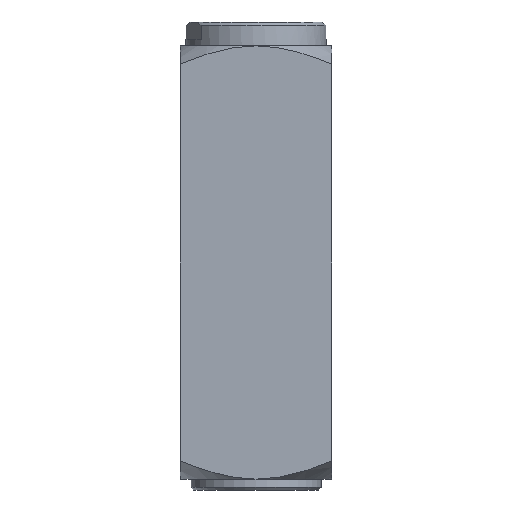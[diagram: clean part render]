
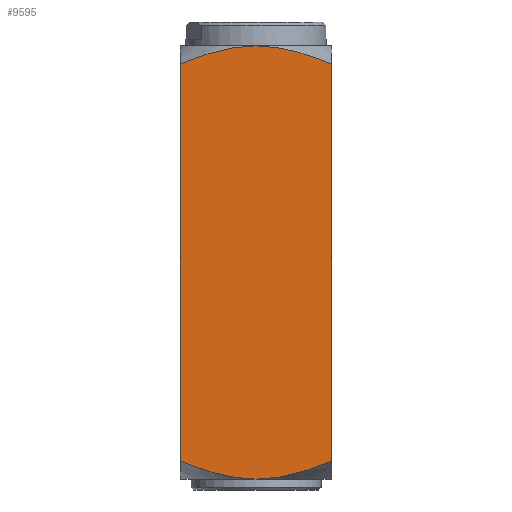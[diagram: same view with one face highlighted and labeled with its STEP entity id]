
A CAD part, front view. The second image highlights one B-rep face of the part: STEP entity #9595.
In plain terms, the highlighted planar face has unit normal (0, -1, 0).
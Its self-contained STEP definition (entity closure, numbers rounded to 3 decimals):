
#61 = CARTESIAN_POINT ( 'NONE',  ( -7.558, -35., -99.551 ) ) ;
#128 = CARTESIAN_POINT ( 'NONE',  ( -6.057, -35., -99.718 ) ) ;
#224 = CARTESIAN_POINT ( 'NONE',  ( 35., -35., -91.63 ) ) ;
#262 = CARTESIAN_POINT ( 'NONE',  ( -3.788, -35., -99.887 ) ) ;
#265 = CARTESIAN_POINT ( 'NONE',  ( -3.026, -35., -99.929 ) ) ;
#470 = CARTESIAN_POINT ( 'NONE',  ( -1.51, -35., -99.986 ) ) ;
#619 = CARTESIAN_POINT ( 'NONE',  ( -0.754, -35., -100. ) ) ;
#1658 = CARTESIAN_POINT ( 'NONE',  ( 35., -35., 91.63 ) ) ;
#1710 = EDGE_CURVE ( 'NONE', #26825, #18938, #8979, .T. ) ;
#1729 = B_SPLINE_CURVE_WITH_KNOTS ( 'NONE', 3,
 ( #30011, #30077, #30119, #30189, #30225, #30231, #30271, #61, #128, #262, #265, #470, #619, #1847 ),
 .UNSPECIFIED., .F., .F.,
 ( 4, 2, 2, 2, 2, 2, 4 ),
 ( 0.038, 0.047, 0.056, 0.065, 0.069, 0.072, 0.074 ),
 .UNSPECIFIED. ) ;
#1847 = CARTESIAN_POINT ( 'NONE',  ( 0., -35., -100. ) ) ;
#1923 = B_SPLINE_CURVE_WITH_KNOTS ( 'NONE', 3,
 ( #11794, #11870, #11897, #11933, #11963, #11983, #12074, #12114, #12121, #12155, #12179, #12216 ),
 .UNSPECIFIED., .F., .F.,
 ( 4, 2, 2, 2, 2, 4 ),
 ( 0.091, 0.1, 0.105, 0.109, 0.118, 0.127 ),
 .UNSPECIFIED. ) ;
#2057 = VECTOR ( 'NONE', #4587, 1000. ) ;
#2546 = VECTOR ( 'NONE', #18197, 1000. ) ;
#2583 = ORIENTED_EDGE ( 'NONE', *, *, #15222, .T. ) ;
#3062 = ORIENTED_EDGE ( 'NONE', *, *, #1710, .T. ) ;
#3750 = CARTESIAN_POINT ( 'NONE',  ( -35., -35., -100. ) ) ;
#4136 = LINE ( 'NONE', #3750, #2057 ) ;
#4159 = EDGE_LOOP ( 'NONE', ( #24977, #27504, #2583, #3062, #19825, #19729 ) ) ;
#4587 = DIRECTION ( 'NONE',  ( 0., 0., 1. ) ) ;
#4981 = EDGE_CURVE ( 'NONE', #29449, #9134, #4136, .T. ) ;
#5392 = CARTESIAN_POINT ( 'NONE',  ( 0., -35., 100. ) ) ;
#5890 = CARTESIAN_POINT ( 'NONE',  ( -0.754, -35., 100. ) ) ;
#6051 = CARTESIAN_POINT ( 'NONE',  ( 0., -35., 100. ) ) ;
#6124 = CARTESIAN_POINT ( 'NONE',  ( -1.51, -35., 99.986 ) ) ;
#6159 = CARTESIAN_POINT ( 'NONE',  ( -3.026, -35., 99.929 ) ) ;
#6199 = CARTESIAN_POINT ( 'NONE',  ( -3.788, -35., 99.887 ) ) ;
#6221 = CARTESIAN_POINT ( 'NONE',  ( -6.057, -35., 99.718 ) ) ;
#6227 = CARTESIAN_POINT ( 'NONE',  ( -7.558, -35., 99.551 ) ) ;
#6260 = CARTESIAN_POINT ( 'NONE',  ( -12.03, -35., 98.905 ) ) ;
#6298 = CARTESIAN_POINT ( 'NONE',  ( -14.97, -35., 98.28 ) ) ;
#6363 = CARTESIAN_POINT ( 'NONE',  ( -20.79, -35., 96.752 ) ) ;
#6396 = CARTESIAN_POINT ( 'NONE',  ( -23.671, -35., 95.848 ) ) ;
#6430 = CARTESIAN_POINT ( 'NONE',  ( -29.388, -35., 93.854 ) ) ;
#6434 = CARTESIAN_POINT ( 'NONE',  ( -32.207, -35., 92.77 ) ) ;
#8149 = B_SPLINE_CURVE_WITH_KNOTS ( 'NONE', 3,
 ( #6051, #5890, #6124, #6159, #6199, #6221, #6227, #6260, #6298, #6363, #6396, #6430, #6434, #26940 ),
 .UNSPECIFIED., .F., .F.,
 ( 4, 2, 2, 2, 2, 2, 4 ),
 ( 0.127, 0.129, 0.132, 0.136, 0.145, 0.154, 0.163 ),
 .UNSPECIFIED. ) ;
#8979 = LINE ( 'NONE', #17677, #2546 ) ;
#9059 = AXIS2_PLACEMENT_3D ( 'NONE', #18035, #18069, #18062 ) ;
#9134 = VERTEX_POINT ( 'NONE', #14272 ) ;
#9285 = VERTEX_POINT ( 'NONE', #5392 ) ;
#9595 = ADVANCED_FACE ( 'NONE', ( #25616 ), #17836, .T. ) ;
#11277 = CARTESIAN_POINT ( 'NONE',  ( 0., -35., -100. ) ) ;
#11794 = CARTESIAN_POINT ( 'NONE',  ( 35., -35., 91.63 ) ) ;
#11870 = CARTESIAN_POINT ( 'NONE',  ( 32.204, -35., 92.771 ) ) ;
#11897 = CARTESIAN_POINT ( 'NONE',  ( 29.38, -35., 93.857 ) ) ;
#11933 = CARTESIAN_POINT ( 'NONE',  ( 25.08, -35., 95.356 ) ) ;
#11963 = CARTESIAN_POINT ( 'NONE',  ( 23.636, -35., 95.834 ) ) ;
#11983 = CARTESIAN_POINT ( 'NONE',  ( 20.742, -35., 96.729 ) ) ;
#12074 = CARTESIAN_POINT ( 'NONE',  ( 19.29, -35., 97.146 ) ) ;
#12114 = CARTESIAN_POINT ( 'NONE',  ( 14.917, -35., 98.292 ) ) ;
#12121 = CARTESIAN_POINT ( 'NONE',  ( 11.979, -35., 98.914 ) ) ;
#12155 = CARTESIAN_POINT ( 'NONE',  ( 6.04, -35., 99.769 ) ) ;
#12179 = CARTESIAN_POINT ( 'NONE',  ( 3.039, -35., 100. ) ) ;
#12216 = CARTESIAN_POINT ( 'NONE',  ( 0., -35., 100. ) ) ;
#12950 = VERTEX_POINT ( 'NONE', #11277 ) ;
#14272 = CARTESIAN_POINT ( 'NONE',  ( -35., -35., 91.63 ) ) ;
#15222 = EDGE_CURVE ( 'NONE', #12950, #26825, #19524, .T. ) ;
#15865 = EDGE_CURVE ( 'NONE', #9285, #9134, #8149, .T. ) ;
#17677 = CARTESIAN_POINT ( 'NONE',  ( 35., -35., -100. ) ) ;
#17836 = PLANE ( 'NONE',  #9059 ) ;
#18035 = CARTESIAN_POINT ( 'NONE',  ( -35., -35., -100. ) ) ;
#18062 = DIRECTION ( 'NONE',  ( 0., 0., -1. ) ) ;
#18069 = DIRECTION ( 'NONE',  ( 0., -1., 0. ) ) ;
#18197 = DIRECTION ( 'NONE',  ( 0., 0., 1. ) ) ;
#18938 = VERTEX_POINT ( 'NONE', #1658 ) ;
#19524 = B_SPLINE_CURVE_WITH_KNOTS ( 'NONE', 3,
 ( #23677, #23645, #23784, #23788, #23818, #23853, #23894, #23914, #23986, #23993, #24015, #24050 ),
 .UNSPECIFIED., .F., .F.,
 ( 4, 2, 2, 2, 2, 4 ),
 ( 0.074, 0.083, 0.092, 0.097, 0.101, 0.11 ),
 .UNSPECIFIED. ) ;
#19729 = ORIENTED_EDGE ( 'NONE', *, *, #15865, .T. ) ;
#19825 = ORIENTED_EDGE ( 'NONE', *, *, #28737, .T. ) ;
#21381 = CARTESIAN_POINT ( 'NONE',  ( -35., -35., -91.63 ) ) ;
#23645 = CARTESIAN_POINT ( 'NONE',  ( 3.039, -35., -100. ) ) ;
#23677 = CARTESIAN_POINT ( 'NONE',  ( 0., -35., -100. ) ) ;
#23784 = CARTESIAN_POINT ( 'NONE',  ( 6.04, -35., -99.769 ) ) ;
#23788 = CARTESIAN_POINT ( 'NONE',  ( 11.979, -35., -98.914 ) ) ;
#23818 = CARTESIAN_POINT ( 'NONE',  ( 14.917, -35., -98.292 ) ) ;
#23853 = CARTESIAN_POINT ( 'NONE',  ( 19.29, -35., -97.146 ) ) ;
#23894 = CARTESIAN_POINT ( 'NONE',  ( 20.742, -35., -96.729 ) ) ;
#23914 = CARTESIAN_POINT ( 'NONE',  ( 23.636, -35., -95.834 ) ) ;
#23986 = CARTESIAN_POINT ( 'NONE',  ( 25.08, -35., -95.356 ) ) ;
#23993 = CARTESIAN_POINT ( 'NONE',  ( 29.38, -35., -93.857 ) ) ;
#24015 = CARTESIAN_POINT ( 'NONE',  ( 32.204, -35., -92.771 ) ) ;
#24050 = CARTESIAN_POINT ( 'NONE',  ( 35., -35., -91.63 ) ) ;
#24977 = ORIENTED_EDGE ( 'NONE', *, *, #4981, .F. ) ;
#25616 = FACE_OUTER_BOUND ( 'NONE', #4159, .T. ) ;
#26825 = VERTEX_POINT ( 'NONE', #224 ) ;
#26940 = CARTESIAN_POINT ( 'NONE',  ( -35., -35., 91.63 ) ) ;
#27504 = ORIENTED_EDGE ( 'NONE', *, *, #27869, .T. ) ;
#27869 = EDGE_CURVE ( 'NONE', #29449, #12950, #1729, .T. ) ;
#28737 = EDGE_CURVE ( 'NONE', #18938, #9285, #1923, .T. ) ;
#29449 = VERTEX_POINT ( 'NONE', #21381 ) ;
#30011 = CARTESIAN_POINT ( 'NONE',  ( -35., -35., -91.63 ) ) ;
#30077 = CARTESIAN_POINT ( 'NONE',  ( -32.207, -35., -92.77 ) ) ;
#30119 = CARTESIAN_POINT ( 'NONE',  ( -29.388, -35., -93.854 ) ) ;
#30189 = CARTESIAN_POINT ( 'NONE',  ( -23.671, -35., -95.848 ) ) ;
#30225 = CARTESIAN_POINT ( 'NONE',  ( -20.79, -35., -96.752 ) ) ;
#30231 = CARTESIAN_POINT ( 'NONE',  ( -14.97, -35., -98.28 ) ) ;
#30271 = CARTESIAN_POINT ( 'NONE',  ( -12.03, -35., -98.905 ) ) ;
